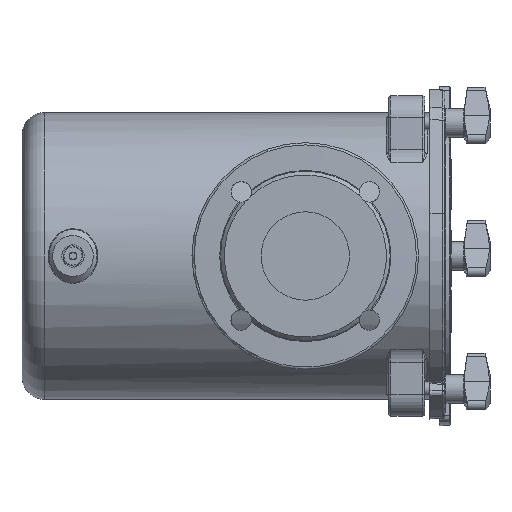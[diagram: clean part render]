
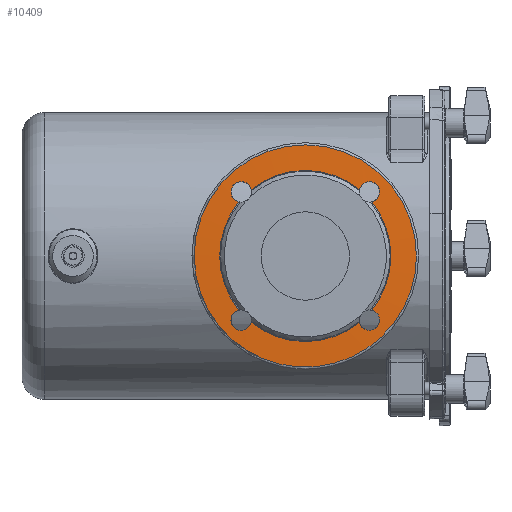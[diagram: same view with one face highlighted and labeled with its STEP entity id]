
A CAD part, left-side view. The second image highlights one B-rep face of the part: STEP entity #10409.
In plain terms, the highlighted conical face has half-angle 88 degrees and reference radius 100 mm.
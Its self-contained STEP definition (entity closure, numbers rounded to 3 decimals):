
#349=CIRCLE('',#10894,98.07);
#367=CIRCLE('',#10924,75.525);
#370=CIRCLE('',#10929,75.525);
#381=CIRCLE('',#10945,75.525);
#382=CIRCLE('',#10947,75.525);
#705=CONICAL_SURFACE('',#10946,100.,1.536);
#798=B_SPLINE_CURVE_WITH_KNOTS('',3,(#13720,#13721,#13722,#13723,#13724,
#13725,#13726,#13727,#13728,#13729,#13730),.UNSPECIFIED.,.F.,.F.,(4,1,1,
1,1,1,1,1,4),(0.,0.005,0.01,
0.014,0.019,0.024,0.029,
0.034,0.038),.UNSPECIFIED.);
#799=B_SPLINE_CURVE_WITH_KNOTS('',3,(#13734,#13735,#13736,#13737,#13738,
#13739,#13740,#13741,#13742,#13743,#13744),.UNSPECIFIED.,.F.,.F.,(4,1,1,
1,1,1,1,1,4),(0.,0.005,0.01,
0.014,0.019,0.024,0.029,
0.034,0.038),.UNSPECIFIED.);
#800=B_SPLINE_CURVE_WITH_KNOTS('',3,(#13745,#13746,#13747,#13748,#13749,
#13750,#13751,#13752,#13753,#13754,#13755),.UNSPECIFIED.,.F.,.F.,(4,1,1,
1,1,1,1,1,4),(0.,0.005,0.01,
0.014,0.019,0.024,0.029,
0.034,0.038),.UNSPECIFIED.);
#801=B_SPLINE_CURVE_WITH_KNOTS('',3,(#13756,#13757,#13758,#13759,#13760,
#13761,#13762,#13763,#13764,#13765,#13766),.UNSPECIFIED.,.F.,.F.,(4,1,1,
1,1,1,1,1,4),(0.,0.005,0.01,
0.014,0.019,0.024,0.029,
0.034,0.038),.UNSPECIFIED.);
#1383=ORIENTED_EDGE('',*,*,#3406,.T.);
#1384=ORIENTED_EDGE('',*,*,#3473,.T.);
#1385=ORIENTED_EDGE('',*,*,#3474,.T.);
#1386=ORIENTED_EDGE('',*,*,#3475,.T.);
#1387=ORIENTED_EDGE('',*,*,#3452,.T.);
#1388=ORIENTED_EDGE('',*,*,#3476,.T.);
#1389=ORIENTED_EDGE('',*,*,#3445,.T.);
#1390=ORIENTED_EDGE('',*,*,#3477,.T.);
#1391=ORIENTED_EDGE('',*,*,#3471,.T.);
#3406=EDGE_CURVE('',#4468,#4468,#349,.T.);
#3445=EDGE_CURVE('',#4496,#4494,#367,.F.);
#3452=EDGE_CURVE('',#4502,#4500,#370,.F.);
#3471=EDGE_CURVE('',#4515,#4514,#381,.F.);
#3473=EDGE_CURVE('',#4514,#4516,#798,.T.);
#3474=EDGE_CURVE('',#4516,#4517,#382,.F.);
#3475=EDGE_CURVE('',#4517,#4502,#799,.T.);
#3476=EDGE_CURVE('',#4500,#4496,#800,.T.);
#3477=EDGE_CURVE('',#4494,#4515,#801,.T.);
#4468=VERTEX_POINT('',#13440);
#4494=VERTEX_POINT('',#13615);
#4496=VERTEX_POINT('',#13618);
#4500=VERTEX_POINT('',#13644);
#4502=VERTEX_POINT('',#13647);
#4514=VERTEX_POINT('',#13712);
#4515=VERTEX_POINT('',#13714);
#4516=VERTEX_POINT('',#13731);
#4517=VERTEX_POINT('',#13733);
#5739=EDGE_LOOP('',(#1383));
#5740=EDGE_LOOP('',(#1384,#1385,#1386,#1387,#1388,#1389,#1390,#1391));
#6338=FACE_BOUND('',#5739,.T.);
#6339=FACE_BOUND('',#5740,.T.);
#10409=ADVANCED_FACE('',(#6338,#6339),#705,.T.);
#10894=AXIS2_PLACEMENT_3D('',#13439,#11669,#11670);
#10924=AXIS2_PLACEMENT_3D('',#13617,#11729,#11730);
#10929=AXIS2_PLACEMENT_3D('',#13646,#11739,#11740);
#10945=AXIS2_PLACEMENT_3D('',#13713,#11771,#11772);
#10946=AXIS2_PLACEMENT_3D('',#13719,#11773,#11774);
#10947=AXIS2_PLACEMENT_3D('',#13732,#11775,#11776);
#11669=DIRECTION('',(-1.,0.,0.));
#11670=DIRECTION('',(0.,-1.,0.));
#11729=DIRECTION('',(-1.,0.,0.));
#11730=DIRECTION('',(0.,-1.,0.));
#11739=DIRECTION('',(-1.,0.,0.));
#11740=DIRECTION('',(0.,-1.,0.));
#11771=DIRECTION('',(-1.,0.,0.));
#11772=DIRECTION('',(0.,-1.,0.));
#11773=DIRECTION('',(1.,0.,0.));
#11774=DIRECTION('',(0.,1.,0.));
#11775=DIRECTION('',(-1.,0.,0.));
#11776=DIRECTION('',(0.,-1.,0.));
#13439=CARTESIAN_POINT('',(-185.567,113.,0.));
#13440=CARTESIAN_POINT('',(-185.567,14.93,0.));
#13615=CARTESIAN_POINT('',(-186.355,160.777,-58.493));
#13617=CARTESIAN_POINT('',(-186.355,113.,0.));
#13618=CARTESIAN_POINT('',(-186.355,65.223,-58.493));
#13644=CARTESIAN_POINT('',(-186.355,54.507,-47.777));
#13646=CARTESIAN_POINT('',(-186.355,113.,0.));
#13647=CARTESIAN_POINT('',(-186.355,54.507,47.777));
#13712=CARTESIAN_POINT('',(-186.355,171.493,47.777));
#13713=CARTESIAN_POINT('',(-186.355,113.,0.));
#13714=CARTESIAN_POINT('',(-186.355,171.493,-47.777));
#13719=CARTESIAN_POINT('',(-185.5,113.,0.));
#13720=CARTESIAN_POINT('',(-186.355,171.493,47.777));
#13721=CARTESIAN_POINT('',(-186.304,173.076,48.123));
#13722=CARTESIAN_POINT('',(-186.191,175.996,49.66));
#13723=CARTESIAN_POINT('',(-186.027,178.629,53.917));
#13724=CARTESIAN_POINT('',(-185.912,178.717,58.893));
#13725=CARTESIAN_POINT('',(-185.87,176.244,63.244));
#13726=CARTESIAN_POINT('',(-185.911,171.914,65.711));
#13727=CARTESIAN_POINT('',(-186.026,166.921,65.631));
#13728=CARTESIAN_POINT('',(-186.19,162.67,63.008));
#13729=CARTESIAN_POINT('',(-186.304,161.123,60.076));
#13730=CARTESIAN_POINT('',(-186.355,160.777,58.493));
#13731=CARTESIAN_POINT('',(-186.355,160.777,58.493));
#13732=CARTESIAN_POINT('',(-186.355,113.,0.));
#13733=CARTESIAN_POINT('',(-186.355,65.223,58.493));
#13734=CARTESIAN_POINT('',(-186.355,65.223,58.493));
#13735=CARTESIAN_POINT('',(-186.304,64.877,60.076));
#13736=CARTESIAN_POINT('',(-186.191,63.34,62.996));
#13737=CARTESIAN_POINT('',(-186.027,59.083,65.629));
#13738=CARTESIAN_POINT('',(-185.912,54.107,65.717));
#13739=CARTESIAN_POINT('',(-185.87,49.756,63.244));
#13740=CARTESIAN_POINT('',(-185.911,47.289,58.914));
#13741=CARTESIAN_POINT('',(-186.026,47.369,53.921));
#13742=CARTESIAN_POINT('',(-186.19,49.992,49.67));
#13743=CARTESIAN_POINT('',(-186.304,52.924,48.123));
#13744=CARTESIAN_POINT('',(-186.355,54.507,47.777));
#13745=CARTESIAN_POINT('',(-186.355,54.507,-47.777));
#13746=CARTESIAN_POINT('',(-186.304,52.924,-48.123));
#13747=CARTESIAN_POINT('',(-186.191,50.004,-49.66));
#13748=CARTESIAN_POINT('',(-186.027,47.371,-53.917));
#13749=CARTESIAN_POINT('',(-185.912,47.283,-58.893));
#13750=CARTESIAN_POINT('',(-185.87,49.756,-63.244));
#13751=CARTESIAN_POINT('',(-185.911,54.086,-65.711));
#13752=CARTESIAN_POINT('',(-186.026,59.079,-65.631));
#13753=CARTESIAN_POINT('',(-186.19,63.33,-63.008));
#13754=CARTESIAN_POINT('',(-186.304,64.877,-60.076));
#13755=CARTESIAN_POINT('',(-186.355,65.223,-58.493));
#13756=CARTESIAN_POINT('',(-186.355,160.777,-58.493));
#13757=CARTESIAN_POINT('',(-186.304,161.123,-60.076));
#13758=CARTESIAN_POINT('',(-186.191,162.66,-62.996));
#13759=CARTESIAN_POINT('',(-186.027,166.917,-65.629));
#13760=CARTESIAN_POINT('',(-185.912,171.893,-65.717));
#13761=CARTESIAN_POINT('',(-185.87,176.244,-63.244));
#13762=CARTESIAN_POINT('',(-185.911,178.711,-58.914));
#13763=CARTESIAN_POINT('',(-186.026,178.631,-53.921));
#13764=CARTESIAN_POINT('',(-186.19,176.008,-49.67));
#13765=CARTESIAN_POINT('',(-186.304,173.076,-48.123));
#13766=CARTESIAN_POINT('',(-186.355,171.493,-47.777));
